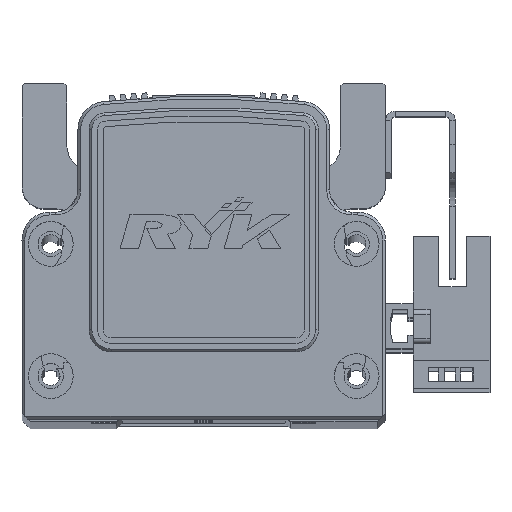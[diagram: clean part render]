
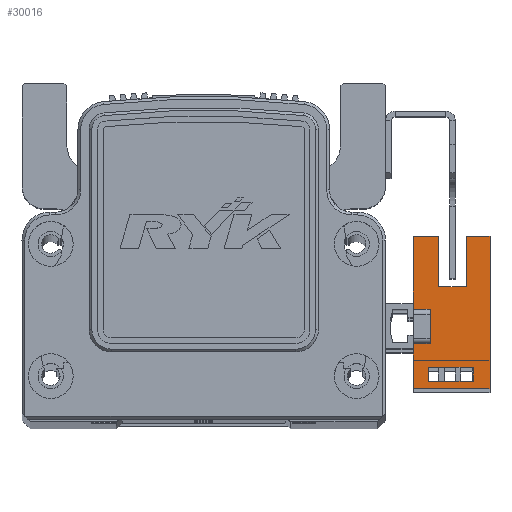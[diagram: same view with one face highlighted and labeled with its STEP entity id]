
A CAD part, top view. The second image highlights one B-rep face of the part: STEP entity #30016.
In plain terms, the highlighted planar face has unit normal (0, 0, 1) as drawn and (1, 0, 0) by its records, which use the part's own axes.
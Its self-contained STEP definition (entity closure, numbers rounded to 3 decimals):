
#2323 = VERTEX_POINT ( 'NONE', #40564 ) ;
#2344 = VERTEX_POINT ( 'NONE', #40562 ) ;
#2353 = VERTEX_POINT ( 'NONE', #40626 ) ;
#2372 = VERTEX_POINT ( 'NONE', #40671 ) ;
#2382 = VERTEX_POINT ( 'NONE', #40686 ) ;
#2396 = VERTEX_POINT ( 'NONE', #39749 ) ;
#2402 = VERTEX_POINT ( 'NONE', #39755 ) ;
#2407 = VERTEX_POINT ( 'NONE', #39761 ) ;
#2420 = VERTEX_POINT ( 'NONE', #39784 ) ;
#2421 = VERTEX_POINT ( 'NONE', #39789 ) ;
#2423 = VERTEX_POINT ( 'NONE', #39795 ) ;
#2428 = VERTEX_POINT ( 'NONE', #39871 ) ;
#2438 = VERTEX_POINT ( 'NONE', #39961 ) ;
#2439 = VERTEX_POINT ( 'NONE', #39887 ) ;
#2442 = VERTEX_POINT ( 'NONE', #39963 ) ;
#2454 = VERTEX_POINT ( 'NONE', #39950 ) ;
#7611 = LINE ( 'NONE', #20336, #7695 ) ;
#7655 = LINE ( 'NONE', #20397, #7664 ) ;
#7656 = VECTOR ( 'NONE', #20470, 1000. ) ;
#7664 = VECTOR ( 'NONE', #20353, 1000. ) ;
#7675 = VECTOR ( 'NONE', #17327, 1000. ) ;
#7678 = VECTOR ( 'NONE', #20455, 1000. ) ;
#7694 = LINE ( 'NONE', #20448, #7656 ) ;
#7695 = VECTOR ( 'NONE', #20338, 1000. ) ;
#7704 = LINE ( 'NONE', #20413, #7678 ) ;
#7709 = LINE ( 'NONE', #17339, #7675 ) ;
#7711 = LINE ( 'NONE', #17369, #7730 ) ;
#7716 = LINE ( 'NONE', #17349, #7763 ) ;
#7718 = VECTOR ( 'NONE', #17378, 1000. ) ;
#7720 = VECTOR ( 'NONE', #17383, 1000. ) ;
#7730 = VECTOR ( 'NONE', #17430, 1000. ) ;
#7731 = LINE ( 'NONE', #17424, #7765 ) ;
#7733 = VECTOR ( 'NONE', #17422, 1000. ) ;
#7736 = LINE ( 'NONE', #17354, #7720 ) ;
#7745 = VECTOR ( 'NONE', #17386, 1000. ) ;
#7746 = LINE ( 'NONE', #17366, #7762 ) ;
#7748 = LINE ( 'NONE', #17393, #7733 ) ;
#7753 = LINE ( 'NONE', #17337, #7718 ) ;
#7754 = LINE ( 'NONE', #17374, #7757 ) ;
#7757 = VECTOR ( 'NONE', #17391, 1000. ) ;
#7762 = VECTOR ( 'NONE', #17415, 1000. ) ;
#7763 = VECTOR ( 'NONE', #17380, 1000. ) ;
#7765 = VECTOR ( 'NONE', #17400, 1000. ) ;
#7771 = LINE ( 'NONE', #17384, #7745 ) ;
#7777 = VECTOR ( 'NONE', #17438, 1000. ) ;
#7782 = VECTOR ( 'NONE', #17448, 1000. ) ;
#7809 = LINE ( 'NONE', #17472, #7782 ) ;
#7827 = LINE ( 'NONE', #17444, #7777 ) ;
#10859 = AXIS2_PLACEMENT_3D ( 'NONE', #13841, #13848, #13821 ) ;
#13455 = ORIENTED_EDGE ( 'NONE', *, *, #28543, .F. ) ;
#13512 = ORIENTED_EDGE ( 'NONE', *, *, #28608, .T. ) ;
#13532 = ORIENTED_EDGE ( 'NONE', *, *, #28564, .T. ) ;
#13535 = ORIENTED_EDGE ( 'NONE', *, *, #28494, .T. ) ;
#13539 = ORIENTED_EDGE ( 'NONE', *, *, #28636, .F. ) ;
#13548 = ORIENTED_EDGE ( 'NONE', *, *, #28573, .F. ) ;
#13554 = ORIENTED_EDGE ( 'NONE', *, *, #28496, .F. ) ;
#13559 = ORIENTED_EDGE ( 'NONE', *, *, #28595, .F. ) ;
#13564 = ORIENTED_EDGE ( 'NONE', *, *, #28602, .T. ) ;
#13566 = ORIENTED_EDGE ( 'NONE', *, *, #28558, .F. ) ;
#13599 = ORIENTED_EDGE ( 'NONE', *, *, #28611, .F. ) ;
#13609 = ORIENTED_EDGE ( 'NONE', *, *, #28593, .F. ) ;
#13610 = ORIENTED_EDGE ( 'NONE', *, *, #28565, .T. ) ;
#13623 = ORIENTED_EDGE ( 'NONE', *, *, #28639, .T. ) ;
#13626 = ORIENTED_EDGE ( 'NONE', *, *, #28503, .F. ) ;
#13631 = ORIENTED_EDGE ( 'NONE', *, *, #28513, .F. ) ;
#13807 = PLANE ( 'NONE',  #10859 ) ;
#13821 = DIRECTION ( 'NONE',  ( 0., 1., 0. ) ) ;
#13841 = CARTESIAN_POINT ( 'NONE',  ( 3.2, 16.1, -10.7 ) ) ;
#13848 = DIRECTION ( 'NONE',  ( 1., 0., 0. ) ) ;
#17327 = DIRECTION ( 'NONE',  ( 0., 1., 0. ) ) ;
#17337 = CARTESIAN_POINT ( 'NONE',  ( 3.2, -11.1, 3. ) ) ;
#17339 = CARTESIAN_POINT ( 'NONE',  ( 3.2, 16.1, -7.7 ) ) ;
#17349 = CARTESIAN_POINT ( 'NONE',  ( 3.2, 7.1, -6.5 ) ) ;
#17354 = CARTESIAN_POINT ( 'NONE',  ( 3.2, 25.1, -1.5 ) ) ;
#17366 = CARTESIAN_POINT ( 'NONE',  ( 3.2, 25.1, -6.5 ) ) ;
#17369 = CARTESIAN_POINT ( 'NONE',  ( 3.2, -3.1, 3. ) ) ;
#17374 = CARTESIAN_POINT ( 'NONE',  ( 3.2, 0., 0. ) ) ;
#17378 = DIRECTION ( 'NONE',  ( 0., 0., 1. ) ) ;
#17380 = DIRECTION ( 'NONE',  ( 0., 0., 1. ) ) ;
#17383 = DIRECTION ( 'NONE',  ( 0., 1., 0. ) ) ;
#17384 = CARTESIAN_POINT ( 'NONE',  ( 3.2, 16.1, 0.3 ) ) ;
#17386 = DIRECTION ( 'NONE',  ( 0., -1., 0. ) ) ;
#17391 = DIRECTION ( 'NONE',  ( 0., 1., 0. ) ) ;
#17393 = CARTESIAN_POINT ( 'NONE',  ( 3.2, 16.1, -10.7 ) ) ;
#17400 = DIRECTION ( 'NONE',  ( 0., 0., -1. ) ) ;
#17415 = DIRECTION ( 'NONE',  ( 0., -1., 0. ) ) ;
#17422 = DIRECTION ( 'NONE',  ( 0., 0., 1. ) ) ;
#17424 = CARTESIAN_POINT ( 'NONE',  ( 3.2, -9.83, -10.7 ) ) ;
#17430 = DIRECTION ( 'NONE',  ( 0., 0., -1. ) ) ;
#17438 = DIRECTION ( 'NONE',  ( 0., 0., 1. ) ) ;
#17444 = CARTESIAN_POINT ( 'NONE',  ( 3.2, -7.33, -10.7 ) ) ;
#17448 = DIRECTION ( 'NONE',  ( 0., 1., 0. ) ) ;
#17472 = CARTESIAN_POINT ( 'NONE',  ( 3.2, 16.1, -10.7 ) ) ;
#20336 = CARTESIAN_POINT ( 'NONE',  ( 3.2, 16.1, -10.7 ) ) ;
#20338 = DIRECTION ( 'NONE',  ( 0., 0., 1. ) ) ;
#20353 = DIRECTION ( 'NONE',  ( 0., 1., 0. ) ) ;
#20397 = CARTESIAN_POINT ( 'NONE',  ( 3.2, 16.1, 3. ) ) ;
#20413 = CARTESIAN_POINT ( 'NONE',  ( 3.2, 3.1, 3. ) ) ;
#20448 = CARTESIAN_POINT ( 'NONE',  ( 3.2, 16.1, 3. ) ) ;
#20455 = DIRECTION ( 'NONE',  ( 0., 0., 1. ) ) ;
#20470 = DIRECTION ( 'NONE',  ( 0., 1., 0. ) ) ;
#24899 = FACE_OUTER_BOUND ( 'NONE', #36948, .T. ) ;
#24909 = FACE_BOUND ( 'NONE', #37014, .T. ) ;
#28494 = EDGE_CURVE ( 'NONE', #2344, #2402, #7611, .T. ) ;
#28496 = EDGE_CURVE ( 'NONE', #2372, #2353, #7655, .T. ) ;
#28503 = EDGE_CURVE ( 'NONE', #2396, #2323, #7694, .T. ) ;
#28513 = EDGE_CURVE ( 'NONE', #2423, #2372, #7704, .T. ) ;
#28543 = EDGE_CURVE ( 'NONE', #2454, #2420, #7709, .T. ) ;
#28558 = EDGE_CURVE ( 'NONE', #2442, #2423, #7754, .T. ) ;
#28564 = EDGE_CURVE ( 'NONE', #2421, #2407, #7716, .T. ) ;
#28565 = EDGE_CURVE ( 'NONE', #2407, #2428, #7736, .T. ) ;
#28573 = EDGE_CURVE ( 'NONE', #2439, #2396, #7753, .T. ) ;
#28593 = EDGE_CURVE ( 'NONE', #2382, #2438, #7771, .T. ) ;
#28595 = EDGE_CURVE ( 'NONE', #2323, #2442, #7711, .T. ) ;
#28602 = EDGE_CURVE ( 'NONE', #2402, #2421, #7746, .T. ) ;
#28608 = EDGE_CURVE ( 'NONE', #2428, #2353, #7748, .T. ) ;
#28611 = EDGE_CURVE ( 'NONE', #2438, #2454, #7731, .T. ) ;
#28636 = EDGE_CURVE ( 'NONE', #2420, #2382, #7827, .T. ) ;
#28639 = EDGE_CURVE ( 'NONE', #2439, #2344, #7809, .T. ) ;
#30016 = ADVANCED_FACE ( 'NONE', ( #24899, #24909 ), #13807, .T. ) ;
#36948 = EDGE_LOOP ( 'NONE', ( #13564, #13532, #13610, #13512, #13554, #13631, #13566, #13559, #13626, #13548, #13623, #13535 ) ) ;
#37014 = EDGE_LOOP ( 'NONE', ( #13609, #13539, #13455, #13599 ) ) ;
#39749 = CARTESIAN_POINT ( 'NONE',  ( 3.2, -11.1, 3. ) ) ;
#39755 = CARTESIAN_POINT ( 'NONE',  ( 3.2, 16.1, -6.5 ) ) ;
#39761 = CARTESIAN_POINT ( 'NONE',  ( 3.2, 7.1, -1.5 ) ) ;
#39784 = CARTESIAN_POINT ( 'NONE',  ( 3.2, -7.33, -7.7 ) ) ;
#39789 = CARTESIAN_POINT ( 'NONE',  ( 3.2, 7.1, -6.5 ) ) ;
#39795 = CARTESIAN_POINT ( 'NONE',  ( 3.2, 3.1, 0. ) ) ;
#39871 = CARTESIAN_POINT ( 'NONE',  ( 3.2, 16.1, -1.5 ) ) ;
#39887 = CARTESIAN_POINT ( 'NONE',  ( 3.2, -11.1, -10.7 ) ) ;
#39950 = CARTESIAN_POINT ( 'NONE',  ( 3.2, -9.83, -7.7 ) ) ;
#39961 = CARTESIAN_POINT ( 'NONE',  ( 3.2, -9.83, 0.3 ) ) ;
#39963 = CARTESIAN_POINT ( 'NONE',  ( 3.2, -3.1, 0. ) ) ;
#40562 = CARTESIAN_POINT ( 'NONE',  ( 3.2, 16.1, -10.7 ) ) ;
#40564 = CARTESIAN_POINT ( 'NONE',  ( 3.2, -3.1, 3. ) ) ;
#40626 = CARTESIAN_POINT ( 'NONE',  ( 3.2, 16.1, 3. ) ) ;
#40671 = CARTESIAN_POINT ( 'NONE',  ( 3.2, 3.1, 3. ) ) ;
#40686 = CARTESIAN_POINT ( 'NONE',  ( 3.2, -7.33, 0.3 ) ) ;
